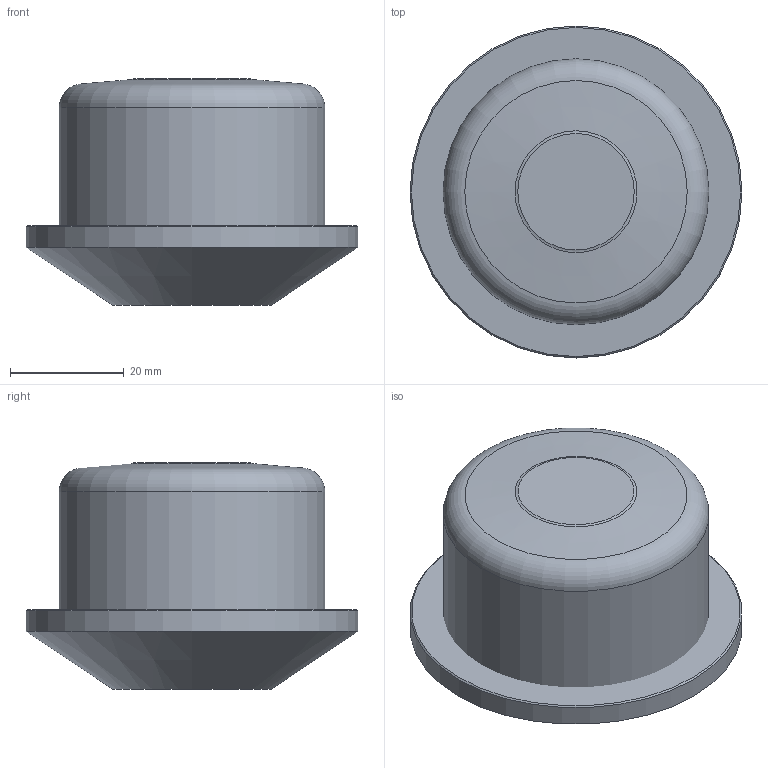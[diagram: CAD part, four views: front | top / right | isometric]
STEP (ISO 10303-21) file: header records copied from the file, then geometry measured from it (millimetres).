
FILE_DESCRIPTION(/* description */ (''),/* implementation_level */ '2;1');
FILE_NAME(/* name */ 'EX_simplified.stp',/* time_stamp */ '2022-02-25T17:03:19+01:00',/* author */ (''),/* organization */ (''),/* preprocessor_version */ 'ST-DEVELOPER v16',/* originating_system */ 'SIEMENS PLM Software NX 11.0',/* authorisation */ '');
FILE_SCHEMA (('AUTOMOTIVE_DESIGN { 1 0 10303 214 3 1 1 1 }'));
Length unit declared in the file: millimetre
Products named in the file (1): mtou36387486v3m0
Bounding box: 58.46 x 58.46 x 39.83 mm (x, y, z)
Volume: 73507.3 mm3; surface area: 14911.6 mm2
Topology: 5 solids, 5 shells, 56 faces, 119 edges, 76 vertices
Faces by surface type: plane 31, cylinder 14, cone 8, torus 3
Full cylindrical faces by diameter (mm): 1.7 x2, 4.027 x1, 6.895 x1, 7.4 x1, 12.494 x1, 46.83 x1, 58.46 x1
Entity records: 1474 total; most frequent: DIRECTION 250, CARTESIAN_POINT 222, ORIENTED_EDGE 186, AXIS2_PLACEMENT_3D 98, EDGE_CURVE 93, EDGE_LOOP 82, VERTEX_POINT 70, ADVANCED_FACE 56
